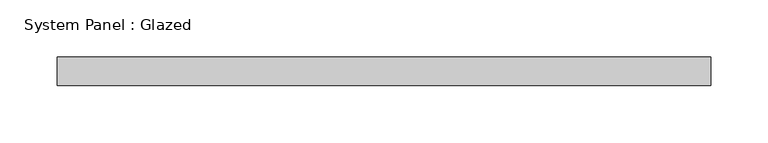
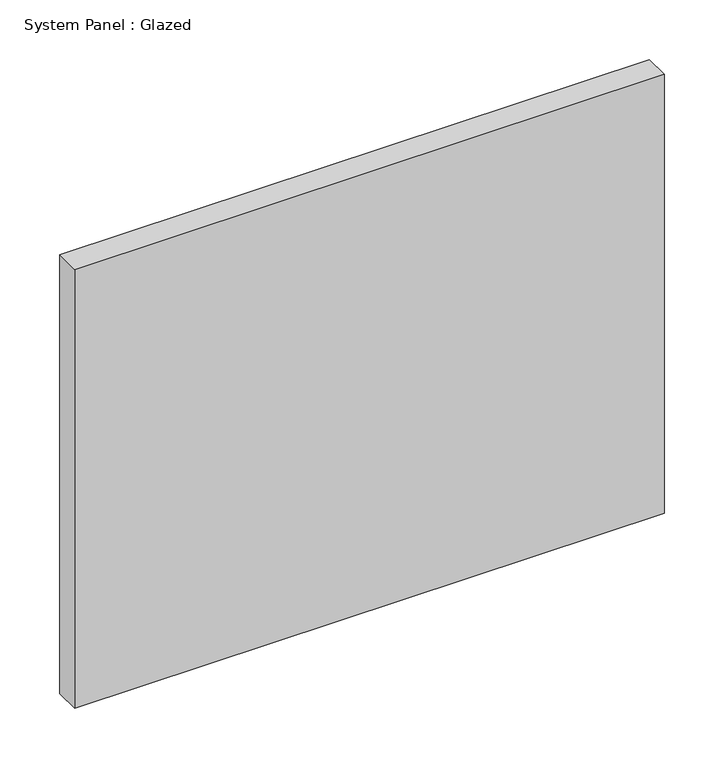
"""IFC4 building model written with IfcOpenShell, lengths in millimetres: plate geometry, System Panel : Glazed."""

from ifc_helpers import new_model, si_unit, origin, origin_with_axes, place, context, project, spatial, polyline, outline, extrude, source, transform, mapped, element, save


def system_panel_glazed_12b397c3(model_context):
    return source(origin(), model_context, "Body", "SweptSolid", [
        extrude(outline(polyline([(285.4675506, -12.5), (-285.4675506, -12.5), (-285.4675506, 12.5), (285.4675506, 12.5), (285.4675506, -12.5)])), origin_with_axes(), (0.0, 0.0, 1.0), 449.1666667),
    ])


if __name__ == "__main__":
    model = new_model("IFC4")
    model_context = context("Model", 3, world=origin())
    ifc_project = project(units=[si_unit("LENGTHUNIT", "METRE", prefix="MILLI")], contexts=[model_context])
    site = spatial("IfcSite", under=ifc_project)
    building = spatial("IfcBuilding", under=site)
    placement = place(None, origin())
    system_panel_glazed_shape = system_panel_glazed_12b397c3(model_context)
    element("IfcPlate", 1, ObjectType="System Panel : Glazed", at=placement, inside=building, context=model_context, shape_type="MappedRepresentation", body=[
        mapped(system_panel_glazed_shape, transform((0.0, 0.0, 0.0), x_axis=(1.0, 0.0, 0.0), y_axis=(0.0, 1.0, 0.0), z_axis=(0.0, 0.0, 1.0))),
    ])
    save(model, "model.ifc")
